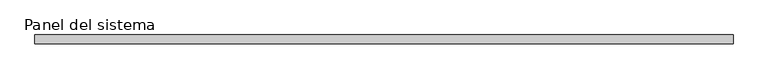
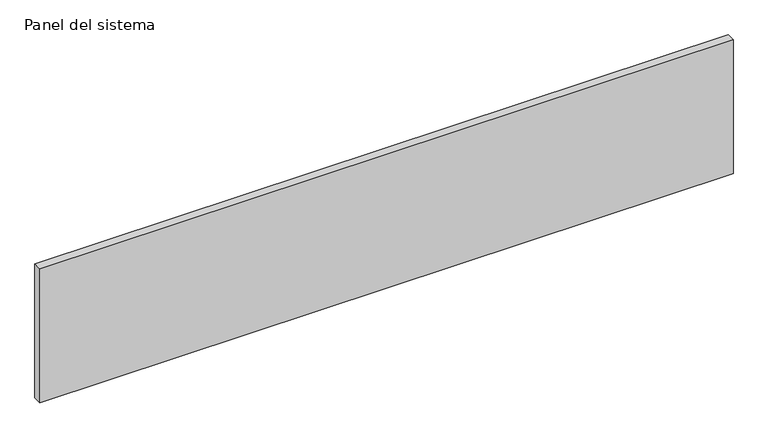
"""IFC4 building model written with IfcOpenShell, lengths in millimetres: plate geometry, Panel del sistema : HIANSA - CHAPA PERFILADA CUBIERTA - MT53MA7 Hor."""

from ifc_helpers import new_model, si_unit, origin, origin_with_axes, place, context, project, spatial, polyline, outline, extrude, source, transform, mapped, element, save


def panel_del_sistema_a0ea347b(model_context):
    return source(origin(), model_context, "Body", "SweptSolid", [
        extrude(outline(polyline([(2128.0, -52.5), (-2128.0, -52.5), (-2128.0, 0.5), (2128.0, 0.5), (2128.0, -52.5)])), origin_with_axes(), (0.0, 0.0, 1.0), 868.0),
    ])


if __name__ == "__main__":
    model = new_model("IFC4")
    model_context = context("Model", 3, world=origin())
    ifc_project = project(units=[si_unit("LENGTHUNIT", "METRE", prefix="MILLI")], contexts=[model_context])
    site = spatial("IfcSite", under=ifc_project)
    building = spatial("IfcBuilding", under=site)
    placement = place(None, origin())
    panel_del_sistema_shape = panel_del_sistema_a0ea347b(model_context)
    element("IfcPlate", 1, ObjectType="Panel del sistema : HIANSA - CHAPA PERFILADA CUBIERTA - MT53MA7 Hor", at=placement, inside=building, context=model_context, shape_type="MappedRepresentation", body=[
        mapped(panel_del_sistema_shape, transform((0.0, 0.0, 0.0), x_axis=(1.0, 0.0, 0.0), y_axis=(0.0, 1.0, 0.0), z_axis=(0.0, 0.0, 1.0))),
    ])
    save(model, "model.ifc")
